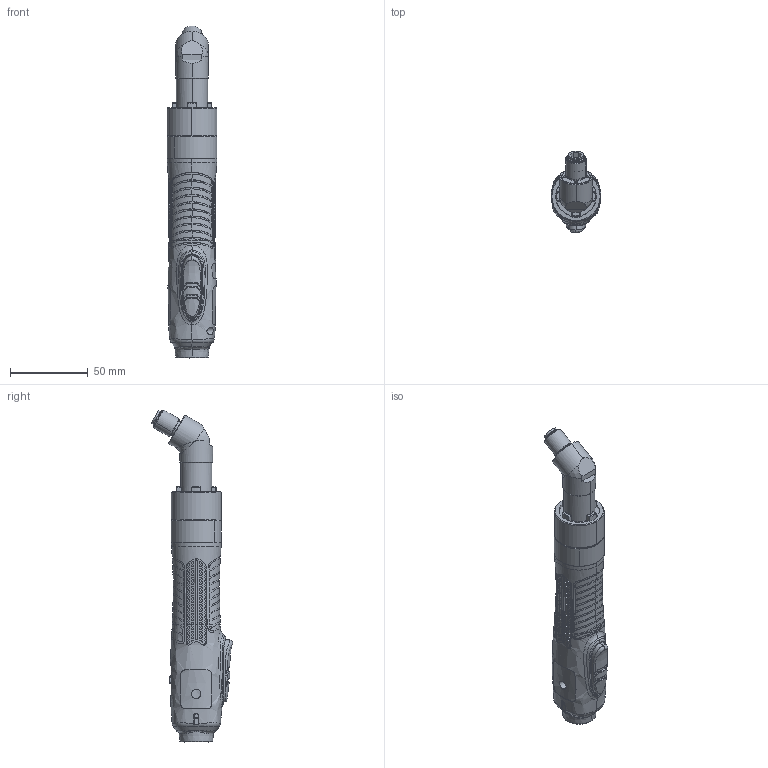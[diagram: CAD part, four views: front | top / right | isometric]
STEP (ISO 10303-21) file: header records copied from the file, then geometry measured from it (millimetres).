
FILE_DESCRIPTION((''),'2;1');
FILE_NAME('MDH22XX-A-E6_3_120DEG_SW0001','2025-04-03T17:34:06',('user'),(''),'CREO PARAMETRIC BY PTC INC, 2021404','CREO PARAMETRIC BY PTC INC, 2021404','');
FILE_SCHEMA(('CONFIG_CONTROL_DESIGN'));
Products named in the file (1): MDH22XX-A-E6_3_120DEG_SW0001
Bounding box: 32.08 x 52.26 x 213.19 mm (x, y, z)
Volume: 58335.6 mm3; surface area: 54595.3 mm2
Topology: 5 solids, 7 shells, 2057 faces, 5367 edges, 3505 vertices
Faces by surface type: plane 1077, cylinder 453, bspline 380, cone 92, torus 42, extrusion 13
Entity records: 101025 total; most frequent: CARTESIAN_POINT 55642, ORIENTED_EDGE 10726, DIRECTION 7181, EDGE_CURVE 5363, VERTEX_POINT 3503, AXIS2_PLACEMENT_3D 2668, B_SPLINE_CURVE_WITH_KNOTS 2540, EDGE_LOOP 2332
